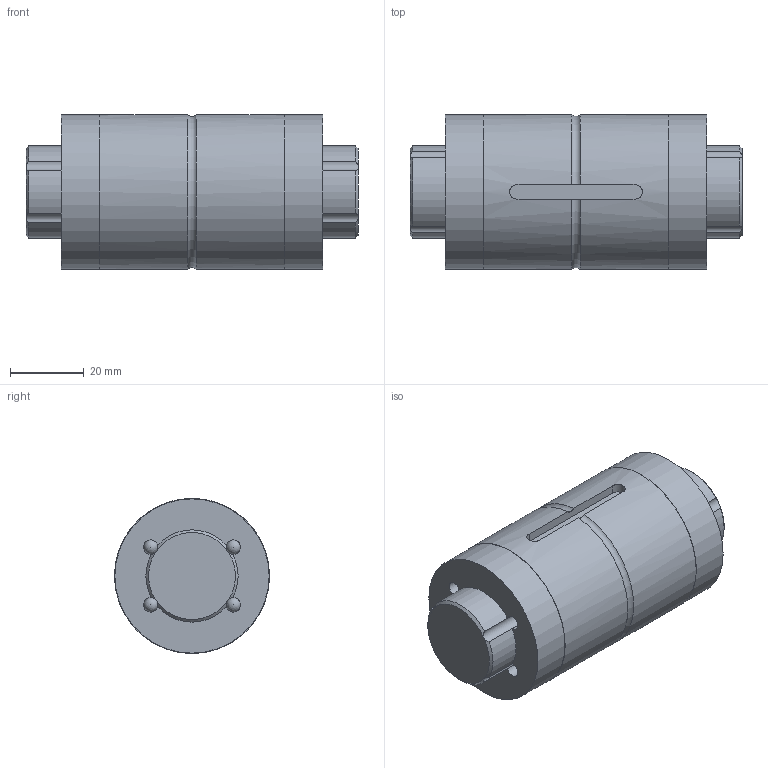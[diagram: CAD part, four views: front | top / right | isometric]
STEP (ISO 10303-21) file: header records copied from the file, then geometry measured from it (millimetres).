
FILE_DESCRIPTION(/* description */ ('Unknown'),/* implementation_level */ '2;1');
FILE_NAME(/* name */ 'TLT025-D-L90',/* time_stamp */ '2024-12-23T10:14:55+08:00',/* author */ ('Unknown'),/* organization */ ('Unknown'),/* preprocessor_version */ 'ST-DEVELOPER v18.102',/* originating_system */ 'Solid Edge',/* authorisation */ 'Unknown');
FILE_SCHEMA (('AUTOMOTIVE_DESIGN {1 0 10303 214 3 1 1}'));
Length unit declared in the file: millimetre
Products named in the file (3): TLT025-D-L90; TLT025-D-xxxx; TLT025
Assembly tree (2 placements, depth 2):
  TLT025-D-L90
    TLT025-D-xxxx
    TLT025
Bounding box: 90 x 42 x 42 mm (x, y, z)
Volume: 103960.3 mm3; surface area: 27661.7 mm2
Topology: 2 solids, 2 shells, 62 faces, 301 edges, 198 vertices
Faces by surface type: cylinder 23, sphere 20, plane 9, cone 8, torus 2
Full cylindrical faces by diameter (mm): 3 x1, 41.8 x2, 42 x2
Entity records: 3510 total; most frequent: CARTESIAN_POINT 1409, ORIENTED_EDGE 478, DIRECTION 332, EDGE_CURVE 239, VERTEX_POINT 167, AXIS2_PLACEMENT_3D 133, EDGE_LOOP 124, FACE_BOUND 124
